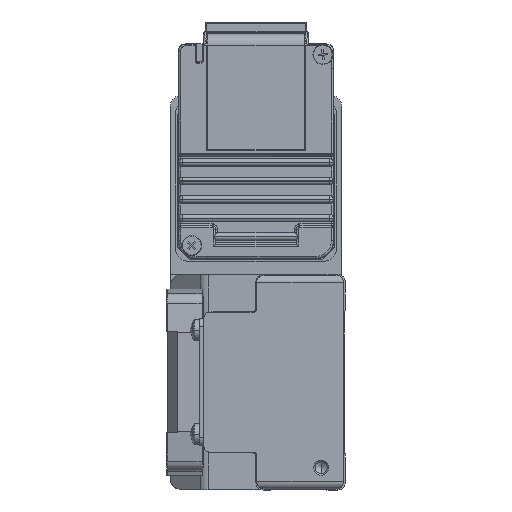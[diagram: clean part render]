
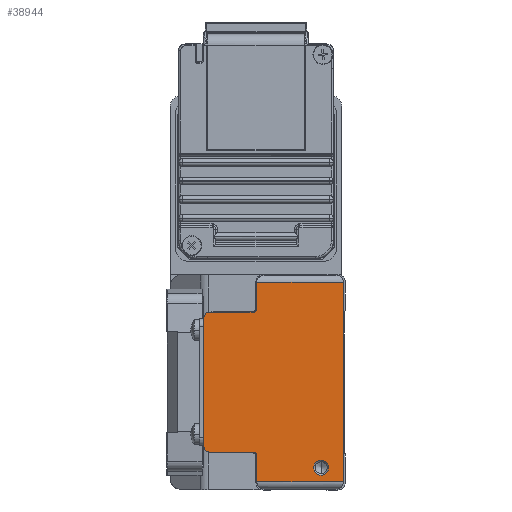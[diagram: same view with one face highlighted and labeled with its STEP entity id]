
A CAD part, left-side view. The second image highlights one B-rep face of the part: STEP entity #38944.
In plain terms, the highlighted planar face has unit normal (-1, 0, 0) as drawn and (0, 0, 1) by its records, which use the part's own axes.
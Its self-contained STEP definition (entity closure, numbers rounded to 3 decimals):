
#149 = LINE ( 'NONE', #9945, #10675 ) ;
#300 = LINE ( 'NONE', #38535, #43582 ) ;
#516 = DIRECTION ( 'NONE',  ( 0., -1., 0. ) ) ;
#828 = VERTEX_POINT ( 'NONE', #9211 ) ;
#947 = CARTESIAN_POINT ( 'NONE',  ( -23., 6.5, 220. ) ) ;
#1025 = VECTOR ( 'NONE', #10885, 1000. ) ;
#1076 = CARTESIAN_POINT ( 'NONE',  ( 18.8, 24.8, 220. ) ) ;
#1409 = DIRECTION ( 'NONE',  ( 0., 0., -1. ) ) ;
#1904 = DIRECTION ( 'NONE',  ( 1., 0., 0. ) ) ;
#2585 = EDGE_CURVE ( 'NONE', #26861, #37585, #34997, .T. ) ;
#2784 = CARTESIAN_POINT ( 'NONE',  ( -19.8, 23.8, 220. ) ) ;
#2948 = AXIS2_PLACEMENT_3D ( 'NONE', #34615, #41673, #7367 ) ;
#3108 = EDGE_CURVE ( 'NONE', #6510, #34883, #34840, .T. ) ;
#3856 = CARTESIAN_POINT ( 'NONE',  ( -17.3, 38., 220. ) ) ;
#4163 = LINE ( 'NONE', #17978, #40410 ) ;
#5697 = EDGE_LOOP ( 'NONE', ( #44639, #19912, #22615, #43038, #17528, #22687, #10303, #14434, #5965, #24720, #22888, #15063 ) ) ;
#5965 = ORIENTED_EDGE ( 'NONE', *, *, #8968, .T. ) ;
#6048 = DIRECTION ( 'NONE',  ( 1., 0., 0. ) ) ;
#6117 = VERTEX_POINT ( 'NONE', #30417 ) ;
#6510 = VERTEX_POINT ( 'NONE', #27605 ) ;
#6544 = CIRCLE ( 'NONE', #27561, 1.5 ) ;
#7367 = DIRECTION ( 'NONE',  ( 1., 0., 0. ) ) ;
#8156 = DIRECTION ( 'NONE',  ( 1., 0., 0. ) ) ;
#8224 = EDGE_LOOP ( 'NONE', ( #10354, #17627 ) ) ;
#8385 = EDGE_CURVE ( 'NONE', #14856, #21587, #44038, .T. ) ;
#8416 = AXIS2_PLACEMENT_3D ( 'NONE', #36022, #22130, #1904 ) ;
#8558 = EDGE_CURVE ( 'NONE', #31836, #34883, #44091, .T. ) ;
#8742 = VECTOR ( 'NONE', #13454, 1000. ) ;
#8848 = VERTEX_POINT ( 'NONE', #3856 ) ;
#8941 = DIRECTION ( 'NONE',  ( -1., 0., 0. ) ) ;
#8968 = EDGE_CURVE ( 'NONE', #17495, #828, #11760, .T. ) ;
#9211 = CARTESIAN_POINT ( 'NONE',  ( 18.8, 36.5, 220. ) ) ;
#9369 = CARTESIAN_POINT ( 'NONE',  ( -19.8, 23.8, 220. ) ) ;
#9631 = EDGE_CURVE ( 'NONE', #21587, #14856, #20175, .T. ) ;
#9945 = CARTESIAN_POINT ( 'NONE',  ( 26.8, 23.8, 220. ) ) ;
#10303 = ORIENTED_EDGE ( 'NONE', *, *, #12799, .T. ) ;
#10354 = ORIENTED_EDGE ( 'NONE', *, *, #8385, .T. ) ;
#10675 = VECTOR ( 'NONE', #27434, 1000. ) ;
#10885 = DIRECTION ( 'NONE',  ( 0., -1., 0. ) ) ;
#11452 = VERTEX_POINT ( 'NONE', #40317 ) ;
#11760 = LINE ( 'NONE', #1076, #17190 ) ;
#12106 = EDGE_CURVE ( 'NONE', #25824, #37585, #21436, .T. ) ;
#12259 = EDGE_CURVE ( 'NONE', #6117, #8848, #4163, .T. ) ;
#12440 = CARTESIAN_POINT ( 'NONE',  ( -26.8, 21.8, 220. ) ) ;
#12699 = CARTESIAN_POINT ( 'NONE',  ( -26.8, 0.5, 220. ) ) ;
#12799 = EDGE_CURVE ( 'NONE', #6510, #36057, #149, .T. ) ;
#13454 = DIRECTION ( 'NONE',  ( 0., -1., 0. ) ) ;
#14345 = VECTOR ( 'NONE', #26865, 1000. ) ;
#14434 = ORIENTED_EDGE ( 'NONE', *, *, #18105, .F. ) ;
#14735 = CARTESIAN_POINT ( 'NONE',  ( -18.8, 36.5, 220. ) ) ;
#14806 = DIRECTION ( 'NONE',  ( -1., 0., 0. ) ) ;
#14856 = VERTEX_POINT ( 'NONE', #26379 ) ;
#14925 = DIRECTION ( 'NONE',  ( 0., 1., 0. ) ) ;
#15063 = ORIENTED_EDGE ( 'NONE', *, *, #35140, .T. ) ;
#15616 = AXIS2_PLACEMENT_3D ( 'NONE', #12440, #26298, #8156 ) ;
#17190 = VECTOR ( 'NONE', #14925, 1000. ) ;
#17495 = VERTEX_POINT ( 'NONE', #19331 ) ;
#17528 = ORIENTED_EDGE ( 'NONE', *, *, #8558, .T. ) ;
#17627 = ORIENTED_EDGE ( 'NONE', *, *, #9631, .T. ) ;
#17978 = CARTESIAN_POINT ( 'NONE',  ( 17.3, 38., 220. ) ) ;
#18105 = EDGE_CURVE ( 'NONE', #17495, #36057, #39463, .T. ) ;
#19133 = CARTESIAN_POINT ( 'NONE',  ( -23., 6.5, 220. ) ) ;
#19331 = CARTESIAN_POINT ( 'NONE',  ( 18.8, 24.8, 220. ) ) ;
#19547 = CARTESIAN_POINT ( 'NONE',  ( -18.8, 24.8, 220. ) ) ;
#19735 = DIRECTION ( 'NONE',  ( 1., 0., 0. ) ) ;
#19912 = ORIENTED_EDGE ( 'NONE', *, *, #12106, .F. ) ;
#20175 = CIRCLE ( 'NONE', #33316, 2. ) ;
#21436 = CIRCLE ( 'NONE', #8416, 1. ) ;
#21587 = VERTEX_POINT ( 'NONE', #36921 ) ;
#22130 = DIRECTION ( 'NONE',  ( 0., 0., 1. ) ) ;
#22208 = CARTESIAN_POINT ( 'NONE',  ( 19.8, 23.8, 220. ) ) ;
#22615 = ORIENTED_EDGE ( 'NONE', *, *, #41748, .T. ) ;
#22687 = ORIENTED_EDGE ( 'NONE', *, *, #3108, .F. ) ;
#22888 = ORIENTED_EDGE ( 'NONE', *, *, #12259, .T. ) ;
#24036 = CARTESIAN_POINT ( 'NONE',  ( -26.8, 0.5, 220. ) ) ;
#24720 = ORIENTED_EDGE ( 'NONE', *, *, #43757, .T. ) ;
#25385 = PLANE ( 'NONE',  #15616 ) ;
#25824 = VERTEX_POINT ( 'NONE', #9369 ) ;
#26298 = DIRECTION ( 'NONE',  ( 0., 0., 1. ) ) ;
#26379 = CARTESIAN_POINT ( 'NONE',  ( -25., 6.5, 220. ) ) ;
#26861 = VERTEX_POINT ( 'NONE', #35723 ) ;
#26865 = DIRECTION ( 'NONE',  ( -1., 0., 0. ) ) ;
#27434 = DIRECTION ( 'NONE',  ( -1., 0., 0. ) ) ;
#27561 = AXIS2_PLACEMENT_3D ( 'NONE', #44993, #34517, #30444 ) ;
#27605 = CARTESIAN_POINT ( 'NONE',  ( 26.8, 23.8, 220. ) ) ;
#28870 = CARTESIAN_POINT ( 'NONE',  ( 26.8, 0.5, 220. ) ) ;
#29632 = LINE ( 'NONE', #2784, #14345 ) ;
#30272 = DIRECTION ( 'NONE',  ( 0., 0., -1. ) ) ;
#30417 = CARTESIAN_POINT ( 'NONE',  ( 17.3, 38., 220. ) ) ;
#30444 = DIRECTION ( 'NONE',  ( 1., 0., 0. ) ) ;
#31654 = DIRECTION ( 'NONE',  ( -1., 0., 0. ) ) ;
#31836 = VERTEX_POINT ( 'NONE', #24036 ) ;
#32754 = CIRCLE ( 'NONE', #2948, 1.5 ) ;
#32971 = AXIS2_PLACEMENT_3D ( 'NONE', #33093, #37167, #6048 ) ;
#33093 = CARTESIAN_POINT ( 'NONE',  ( 19.8, 24.8, 220. ) ) ;
#33316 = AXIS2_PLACEMENT_3D ( 'NONE', #19133, #30272, #8941 ) ;
#34177 = CARTESIAN_POINT ( 'NONE',  ( 26.8, 24., 220. ) ) ;
#34517 = DIRECTION ( 'NONE',  ( 0., 0., 1. ) ) ;
#34575 = AXIS2_PLACEMENT_3D ( 'NONE', #947, #1409, #14806 ) ;
#34615 = CARTESIAN_POINT ( 'NONE',  ( 17.3, 36.5, 220. ) ) ;
#34840 = LINE ( 'NONE', #34177, #8742 ) ;
#34883 = VERTEX_POINT ( 'NONE', #28870 ) ;
#34997 = LINE ( 'NONE', #14735, #1025 ) ;
#35140 = EDGE_CURVE ( 'NONE', #8848, #26861, #6544, .T. ) ;
#35723 = CARTESIAN_POINT ( 'NONE',  ( -18.8, 36.5, 220. ) ) ;
#36022 = CARTESIAN_POINT ( 'NONE',  ( -19.8, 24.8, 220. ) ) ;
#36057 = VERTEX_POINT ( 'NONE', #22208 ) ;
#36921 = CARTESIAN_POINT ( 'NONE',  ( -21., 6.5, 220. ) ) ;
#37167 = DIRECTION ( 'NONE',  ( 0., 0., 1. ) ) ;
#37585 = VERTEX_POINT ( 'NONE', #19547 ) ;
#38535 = CARTESIAN_POINT ( 'NONE',  ( -26.8, 24., 220. ) ) ;
#38944 = ADVANCED_FACE ( 'NONE', ( #42696, #39487 ), #25385, .T. ) ;
#39463 = CIRCLE ( 'NONE', #32971, 1. ) ;
#39487 = FACE_OUTER_BOUND ( 'NONE', #5697, .T. ) ;
#40317 = CARTESIAN_POINT ( 'NONE',  ( -26.8, 23.8, 220. ) ) ;
#40410 = VECTOR ( 'NONE', #31654, 1000. ) ;
#41673 = DIRECTION ( 'NONE',  ( 0., 0., 1. ) ) ;
#41748 = EDGE_CURVE ( 'NONE', #25824, #11452, #29632, .T. ) ;
#42696 = FACE_BOUND ( 'NONE', #8224, .T. ) ;
#43038 = ORIENTED_EDGE ( 'NONE', *, *, #43525, .T. ) ;
#43321 = VECTOR ( 'NONE', #19735, 1000. ) ;
#43525 = EDGE_CURVE ( 'NONE', #11452, #31836, #300, .T. ) ;
#43582 = VECTOR ( 'NONE', #516, 1000. ) ;
#43757 = EDGE_CURVE ( 'NONE', #828, #6117, #32754, .T. ) ;
#44038 = CIRCLE ( 'NONE', #34575, 2. ) ;
#44091 = LINE ( 'NONE', #12699, #43321 ) ;
#44639 = ORIENTED_EDGE ( 'NONE', *, *, #2585, .T. ) ;
#44993 = CARTESIAN_POINT ( 'NONE',  ( -17.3, 36.5, 220. ) ) ;
